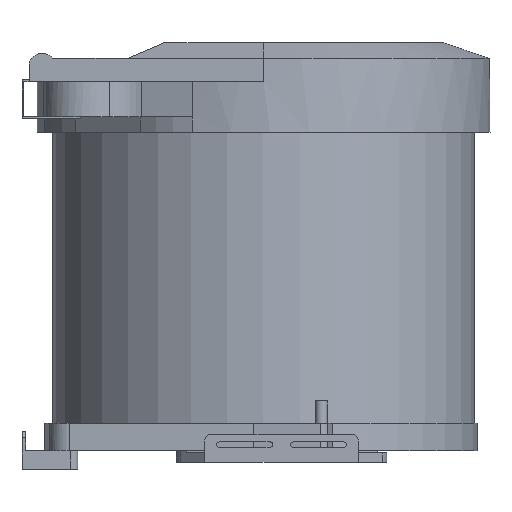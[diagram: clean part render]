
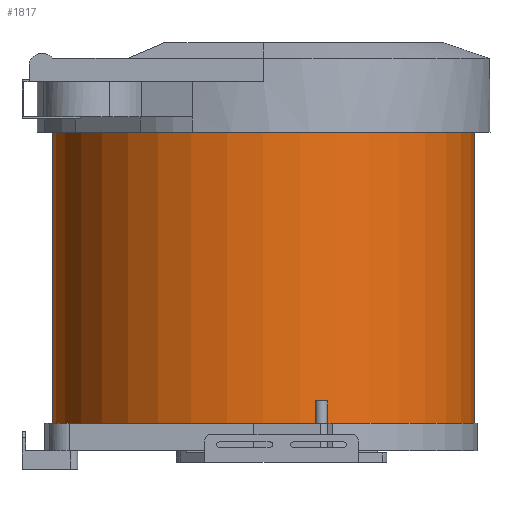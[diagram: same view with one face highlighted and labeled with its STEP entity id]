
A CAD part, front view. The second image highlights one B-rep face of the part: STEP entity #1817.
In plain terms, the highlighted cylindrical face has radius 178.5 mm (diameter 357 mm), a partial arc.
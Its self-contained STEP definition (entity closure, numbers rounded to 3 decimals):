
#1817=ADVANCED_FACE('',(#3240),#3241,.T.);
#3240=FACE_OUTER_BOUND('',#5330,.T.);
#3241=CYLINDRICAL_SURFACE('',#5331,178.5);
#5330=EDGE_LOOP('',(#6568,#6569,#6570,#6571));
#5331=AXIS2_PLACEMENT_3D('',#6572,#6573,#6574);
#6568=ORIENTED_EDGE('',*,*,#8900,.F.);
#6569=ORIENTED_EDGE('',*,*,#8901,.F.);
#6570=ORIENTED_EDGE('',*,*,#8902,.F.);
#6571=ORIENTED_EDGE('',*,*,#8903,.T.);
#6572=CARTESIAN_POINT('',(204.4,199.4,39.0));
#6573=DIRECTION('',(0.0,0.0,1.0));
#6574=DIRECTION('',(-1.0,0.,0.0));
#8900=EDGE_CURVE('',#10221,#10222,#10223,.T.);
#8901=EDGE_CURVE('',#10224,#10221,#10225,.T.);
#8902=EDGE_CURVE('',#10226,#10224,#10227,.T.);
#8903=EDGE_CURVE('',#10226,#10222,#10228,.T.);
#10221=VERTEX_POINT('',#11179);
#10222=VERTEX_POINT('',#11180);
#10223=LINE('',#11181,#11182);
#10224=VERTEX_POINT('',#11183);
#10225=CIRCLE('',#11184,178.5);
#10226=VERTEX_POINT('',#11185);
#10227=LINE('',#11186,#11187);
#10228=CIRCLE('',#11188,178.5);
#11179=CARTESIAN_POINT('',(25.9,199.4,39.0));
#11180=CARTESIAN_POINT('',(25.9,199.4,285.5));
#11181=CARTESIAN_POINT('',(25.9,199.4,39.0));
#11182=VECTOR('',#12252,1.0);
#11183=CARTESIAN_POINT('',(382.9,199.4,39.0));
#11184=AXIS2_PLACEMENT_3D('',#12253,#12254,#12255);
#11185=CARTESIAN_POINT('',(382.9,199.4,285.5));
#11186=CARTESIAN_POINT('',(382.9,199.4,39.0));
#11187=VECTOR('',#12256,1.0);
#11188=AXIS2_PLACEMENT_3D('',#12257,#12258,#12259);
#12252=DIRECTION('',(0.0,0.0,1.0));
#12253=CARTESIAN_POINT('',(204.4,199.4,39.0));
#12254=DIRECTION('',(0.,0.,-1.0));
#12255=DIRECTION('',(-1.0,0.,0.));
#12256=DIRECTION('',(-0.0,-0.0,-1.0));
#12257=CARTESIAN_POINT('',(204.4,199.4,285.5));
#12258=DIRECTION('',(0.,0.,-1.0));
#12259=DIRECTION('',(-1.0,0.,0.));
